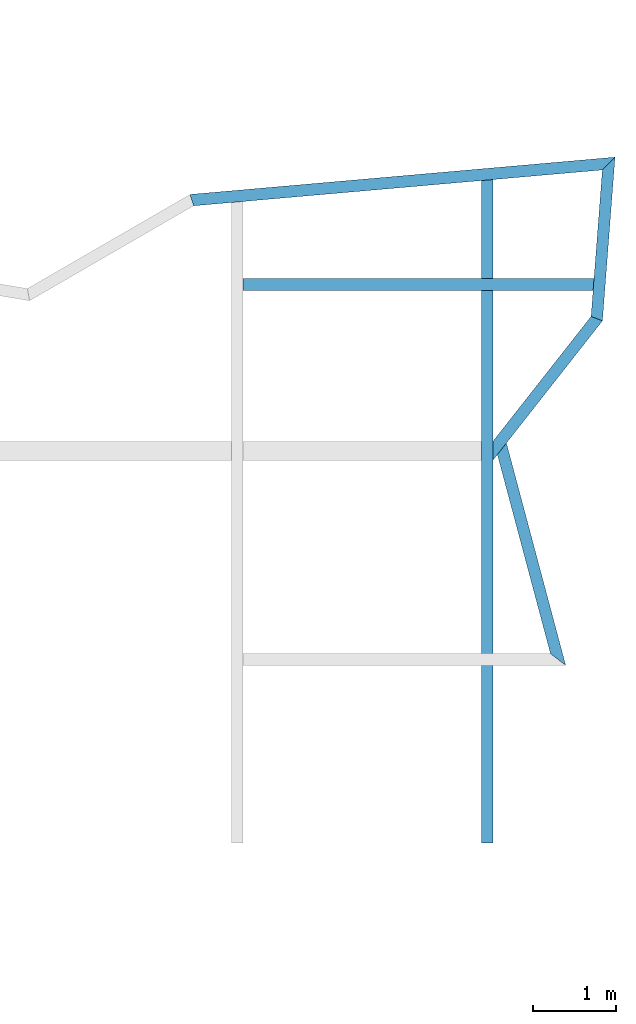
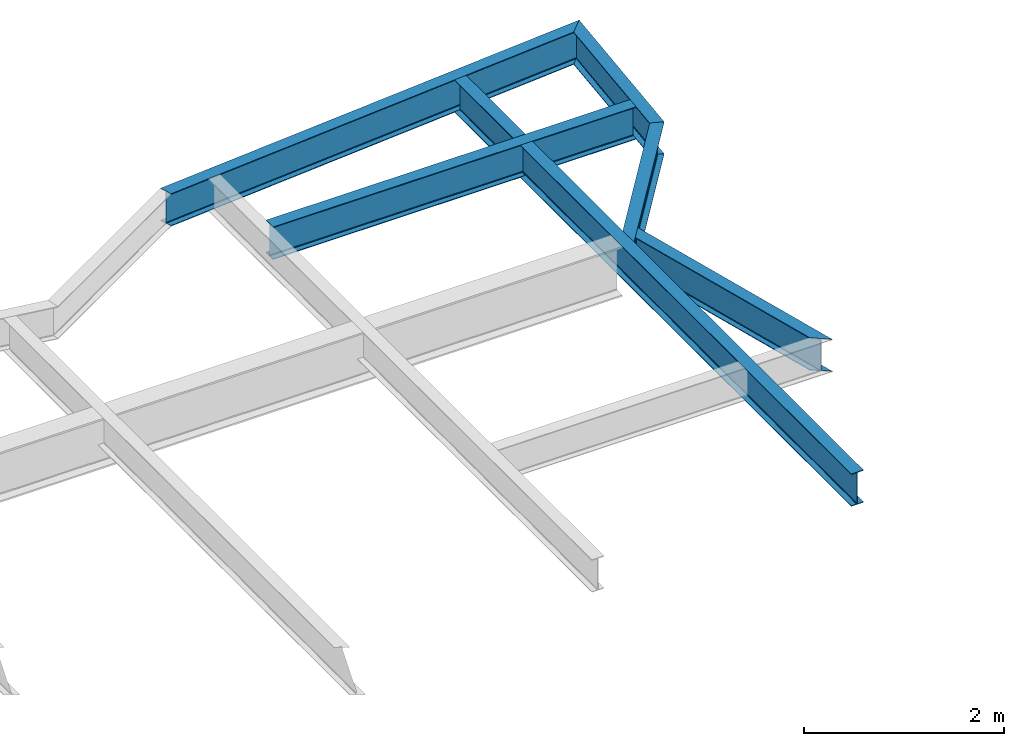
# One storey, part 23 of 23: 6 beams.
"""IFC2X3 building model written with IfcOpenShell, lengths in millimetres."""

from ifc_helpers import new_model, si_unit, origin, place, context, project, spatial, faceted_brep, material, element, save


model = new_model("IFC2X3")

# Units and contexts
context_of_model = context(None, 3, precision=1e-05, world=origin())
ifc_project = project(units=[si_unit("LENGTHUNIT", "METRE", prefix="MILLI")], contexts=[context_of_model])

# Building, storey
building = spatial("IfcBuilding", under=ifc_project, Name="Building", CompositionType="ELEMENT")
storey = spatial("IfcBuildingStorey", under=building, Name="FL5-FRM", CompositionType="ELEMENT")

# Beams
ifc_material_1 = material(Name="A992")
beam_1_placement = place(None, origin())
element("IfcBeam", 1, at=beam_1_placement, inside=storey, material=ifc_material_1, Name="B932", context=context_of_model, shape_type="Brep", body=[
    faceted_brep([(84121.0, 26959.1, 17474.0), (84229.2, 27096.8, 17474.0), (84940.3, 24430.0, 17474.0), (84758.1, 24570.0, 17474.0), (84229.2, 27096.8, 17482.8), (84940.3, 24430.0, 17482.8), (84185.4, 27041.1, 17482.8), (84866.6, 24486.6, 17482.8), (84184.2, 27039.5, 17482.9), (84864.6, 24488.2, 17482.9), (84183.0, 27038.0, 17483.3), (84862.6, 24489.7, 17483.3), (84181.9, 27036.6, 17483.9), (84860.7, 24491.2, 17483.9), (84180.8, 27035.2, 17484.7), (84858.9, 24492.5, 17484.7), (84179.9, 27034.0, 17485.8), (84857.2, 24493.8, 17485.8), (84179.1, 27033.0, 17487.0), (84856.0, 24494.8, 17486.9), (84178.4, 27032.2, 17488.3), (84854.8, 24495.7, 17488.3), (84178.0, 27031.6, 17489.8), (84854.1, 24496.3, 17489.8), (84177.7, 27031.2, 17491.4), (84853.6, 24496.6, 17491.4), (84177.6, 27031.1, 17493.0), (84853.4, 24496.8, 17493.0), (84177.6, 27031.1, 17854.0), (84853.4, 24496.8, 17854.0), (84177.7, 27031.2, 17855.6), (84853.6, 24496.6, 17855.6), (84178.0, 27031.6, 17857.2), (84854.1, 24496.3, 17857.2), (84178.4, 27032.2, 17858.7), (84854.8, 24495.7, 17858.7), (84179.1, 27033.0, 17860.0), (84856.0, 24494.8, 17860.1), (84179.9, 27034.0, 17861.2), (84857.2, 24493.8, 17861.2), (84180.8, 27035.2, 17862.3), (84858.9, 24492.5, 17862.3), (84181.9, 27036.6, 17863.1), (84860.7, 24491.2, 17863.1), (84183.0, 27038.0, 17863.7), (84862.6, 24489.7, 17863.7), (84184.2, 27039.5, 17864.1), (84864.6, 24488.2, 17864.1), (84185.4, 27041.1, 17864.2), (84866.6, 24486.6, 17864.2), (84229.2, 27096.8, 17864.2), (84940.3, 24430.0, 17864.2), (84229.2, 27096.8, 17873.0), (84940.3, 24430.0, 17873.0), (84121.0, 26959.1, 17873.0), (84758.1, 24570.0, 17873.0), (84121.0, 26959.1, 17864.2), (84758.1, 24570.0, 17864.2), (84164.7, 27014.7, 17864.2), (84831.8, 24513.4, 17864.2), (84166.0, 27016.3, 17864.1), (84833.8, 24511.8, 17864.1), (84167.2, 27017.8, 17863.7), (84835.8, 24510.3, 17863.7), (84168.3, 27019.3, 17863.1), (84837.7, 24508.8, 17863.1), (84169.3, 27020.6, 17862.3), (84839.5, 24507.5, 17862.3), (84170.3, 27021.8, 17861.2), (84841.1, 24506.2, 17861.2), (84171.1, 27022.8, 17860.0), (84842.4, 24505.2, 17860.1), (84171.7, 27023.7, 17858.7), (84843.6, 24504.3, 17858.7), (84172.2, 27024.3, 17857.2), (84844.3, 24503.7, 17857.2), (84172.5, 27024.6, 17855.6), (84844.8, 24503.4, 17855.6), (84172.6, 27024.8, 17854.0), (84845.0, 24503.2, 17854.0), (84172.6, 27024.8, 17493.0), (84845.0, 24503.2, 17493.0), (84172.5, 27024.6, 17491.4), (84844.8, 24503.4, 17491.4), (84172.2, 27024.3, 17489.8), (84844.3, 24503.7, 17489.8), (84171.7, 27023.7, 17488.3), (84843.6, 24504.3, 17488.3), (84171.1, 27022.8, 17487.0), (84842.4, 24505.2, 17486.9), (84170.3, 27021.8, 17485.8), (84841.1, 24506.2, 17485.8), (84169.3, 27020.6, 17484.7), (84839.5, 24507.5, 17484.7), (84168.3, 27019.3, 17483.9), (84837.7, 24508.8, 17483.9), (84167.2, 27017.8, 17483.3), (84835.8, 24510.3, 17483.3), (84166.0, 27016.3, 17482.9), (84833.8, 24511.8, 17482.9), (84164.7, 27014.7, 17482.8), (84831.8, 24513.4, 17482.8), (84121.0, 26959.1, 17482.8), (84758.1, 24570.0, 17482.8)], [[[0, 1, 2, 3]], [[1, 4, 5, 2]], [[4, 6, 7, 5]], [[6, 8, 9, 7]], [[8, 10, 11, 9]], [[10, 12, 13, 11]], [[12, 14, 15, 13]], [[14, 16, 17, 15]], [[16, 18, 19, 17]], [[18, 20, 21, 19]], [[20, 22, 23, 21]], [[22, 24, 25, 23]], [[24, 26, 27, 25]], [[26, 28, 29, 27]], [[28, 30, 31, 29]], [[30, 32, 33, 31]], [[32, 34, 35, 33]], [[34, 36, 37, 35]], [[36, 38, 39, 37]], [[38, 40, 41, 39]], [[40, 42, 43, 41]], [[42, 44, 45, 43]], [[44, 46, 47, 45]], [[46, 48, 49, 47]], [[48, 50, 51, 49]], [[50, 52, 53, 51]], [[52, 54, 55, 53]], [[54, 56, 57, 55]], [[56, 58, 59, 57]], [[58, 60, 61, 59]], [[60, 62, 63, 61]], [[62, 64, 65, 63]], [[64, 66, 67, 65]], [[66, 68, 69, 67]], [[68, 70, 71, 69]], [[70, 72, 73, 71]], [[72, 74, 75, 73]], [[74, 76, 77, 75]], [[76, 78, 79, 77]], [[78, 80, 81, 79]], [[80, 82, 83, 81]], [[82, 84, 85, 83]], [[84, 86, 87, 85]], [[86, 88, 89, 87]], [[88, 90, 91, 89]], [[90, 92, 93, 91]], [[92, 94, 95, 93]], [[94, 96, 97, 95]], [[96, 98, 99, 97]], [[98, 100, 101, 99]], [[100, 102, 103, 101]], [[102, 0, 3, 103]], [[0, 102, 100, 98, 96, 94, 92, 90, 88, 86, 84, 82, 80, 78, 76, 74, 72, 70, 68, 66, 64, 62, 60, 58, 56, 54, 52, 50, 48, 46, 44, 42, 40, 38, 36, 34, 32, 30, 28, 26, 24, 22, 20, 18, 16, 14, 12, 10, 8, 6, 4, 1]], [[3, 2, 5, 7, 9, 11, 13, 15, 17, 19, 21, 23, 25, 27, 29, 31, 33, 35, 37, 39, 41, 43, 45, 47, 49, 51, 53, 55, 57, 59, 61, 63, 65, 67, 69, 71, 73, 75, 77, 79, 81, 83, 85, 87, 89, 91, 93, 95, 97, 99, 101, 103]]]),
])
ifc_material_2 = material(Name="A992")
beam_2_placement = place(None, origin())
element("IfcBeam", 2, at=beam_2_placement, inside=storey, material=ifc_material_2, Name="B933", context=context_of_model, shape_type="Brep", body=[
    faceted_brep([(83930.0, 30246.2, 17474.0), (84070.0, 30258.5, 17474.0), (84070.0, 22300.0, 17474.0), (83930.0, 22300.0, 17474.0), (84070.0, 30258.5, 17482.8), (84070.0, 22300.0, 17482.8), (84013.4, 30253.5, 17482.8), (84013.4, 22300.0, 17482.8), (84011.9, 30253.4, 17482.9), (84011.9, 22300.0, 17482.9), (84010.5, 30253.3, 17483.2), (84010.5, 22300.0, 17483.2), (84009.2, 30253.2, 17483.7), (84009.2, 22300.0, 17483.7), (84007.9, 30253.1, 17484.4), (84007.9, 22300.0, 17484.4), (84006.7, 30253.0, 17485.3), (84006.7, 22300.0, 17485.3), (84005.7, 30252.9, 17486.3), (84005.7, 22300.0, 17486.3), (84004.8, 30252.8, 17487.5), (84004.8, 22300.0, 17487.5), (84004.1, 30252.7, 17488.8), (84004.1, 22300.0, 17488.8), (84003.6, 30252.7, 17490.1), (84003.6, 22300.0, 17490.1), (84003.3, 30252.7, 17491.5), (84003.3, 22300.0, 17491.5), (84003.2, 30252.7, 17493.0), (84003.2, 22300.0, 17493.0), (84003.2, 30252.7, 17854.0), (84003.2, 22300.0, 17854.0), (84003.3, 30252.7, 17855.5), (84003.3, 22300.0, 17855.5), (84003.6, 30252.7, 17856.9), (84003.6, 22300.0, 17856.9), (84004.1, 30252.7, 17858.2), (84004.1, 22300.0, 17858.2), (84004.8, 30252.8, 17859.5), (84004.8, 22300.0, 17859.5), (84005.7, 30252.9, 17860.7), (84005.7, 22300.0, 17860.7), (84006.7, 30253.0, 17861.7), (84006.7, 22300.0, 17861.7), (84007.9, 30253.1, 17862.6), (84007.9, 22300.0, 17862.6), (84009.2, 30253.2, 17863.3), (84009.2, 22300.0, 17863.3), (84010.5, 30253.3, 17863.8), (84010.5, 22300.0, 17863.8), (84011.9, 30253.4, 17864.1), (84011.9, 22300.0, 17864.1), (84013.4, 30253.5, 17864.2), (84013.4, 22300.0, 17864.2), (84070.0, 30258.5, 17864.2), (84070.0, 22300.0, 17864.2), (84070.0, 30258.5, 17873.0), (84070.0, 22300.0, 17873.0), (83930.0, 30246.2, 17873.0), (83930.0, 22300.0, 17873.0), (83930.0, 30246.2, 17864.2), (83930.0, 22300.0, 17864.2), (83986.6, 30251.2, 17864.2), (83986.6, 22300.0, 17864.2), (83988.1, 30251.3, 17864.1), (83988.1, 22300.0, 17864.1), (83989.5, 30251.4, 17863.8), (83989.5, 22300.0, 17863.8), (83990.8, 30251.6, 17863.3), (83990.8, 22300.0, 17863.3), (83992.1, 30251.7, 17862.6), (83992.1, 22300.0, 17862.6), (83993.3, 30251.8, 17861.7), (83993.3, 22300.0, 17861.7), (83994.3, 30251.9, 17860.7), (83994.3, 22300.0, 17860.7), (83995.2, 30251.9, 17859.5), (83995.2, 22300.0, 17859.5), (83995.9, 30252.0, 17858.2), (83995.9, 22300.0, 17858.2), (83996.4, 30252.1, 17856.9), (83996.4, 22300.0, 17856.9), (83996.7, 30252.1, 17855.5), (83996.7, 22300.0, 17855.5), (83996.8, 30252.1, 17854.0), (83996.8, 22300.0, 17854.0), (83996.8, 30252.1, 17493.0), (83996.8, 22300.0, 17493.0), (83996.7, 30252.1, 17491.5), (83996.7, 22300.0, 17491.5), (83996.4, 30252.1, 17490.1), (83996.4, 22300.0, 17490.1), (83995.9, 30252.0, 17488.8), (83995.9, 22300.0, 17488.8), (83995.2, 30251.9, 17487.5), (83995.2, 22300.0, 17487.5), (83994.3, 30251.9, 17486.3), (83994.3, 22300.0, 17486.3), (83993.3, 30251.8, 17485.3), (83993.3, 22300.0, 17485.3), (83992.1, 30251.7, 17484.4), (83992.1, 22300.0, 17484.4), (83990.8, 30251.6, 17483.7), (83990.8, 22300.0, 17483.7), (83989.5, 30251.4, 17483.2), (83989.5, 22300.0, 17483.2), (83988.1, 30251.3, 17482.9), (83988.1, 22300.0, 17482.9), (83986.6, 30251.2, 17482.8), (83986.6, 22300.0, 17482.8), (83930.0, 30246.2, 17482.8), (83930.0, 22300.0, 17482.8)], [[[0, 1, 2, 3]], [[1, 4, 5, 2]], [[4, 6, 7, 5]], [[6, 8, 9, 7]], [[8, 10, 11, 9]], [[10, 12, 13, 11]], [[12, 14, 15, 13]], [[14, 16, 17, 15]], [[16, 18, 19, 17]], [[18, 20, 21, 19]], [[20, 22, 23, 21]], [[22, 24, 25, 23]], [[24, 26, 27, 25]], [[26, 28, 29, 27]], [[28, 30, 31, 29]], [[30, 32, 33, 31]], [[32, 34, 35, 33]], [[34, 36, 37, 35]], [[36, 38, 39, 37]], [[38, 40, 41, 39]], [[40, 42, 43, 41]], [[42, 44, 45, 43]], [[44, 46, 47, 45]], [[46, 48, 49, 47]], [[48, 50, 51, 49]], [[50, 52, 53, 51]], [[52, 54, 55, 53]], [[54, 56, 57, 55]], [[56, 58, 59, 57]], [[58, 60, 61, 59]], [[60, 62, 63, 61]], [[62, 64, 65, 63]], [[64, 66, 67, 65]], [[66, 68, 69, 67]], [[68, 70, 71, 69]], [[70, 72, 73, 71]], [[72, 74, 75, 73]], [[74, 76, 77, 75]], [[76, 78, 79, 77]], [[78, 80, 81, 79]], [[80, 82, 83, 81]], [[82, 84, 85, 83]], [[84, 86, 87, 85]], [[86, 88, 89, 87]], [[88, 90, 91, 89]], [[90, 92, 93, 91]], [[92, 94, 95, 93]], [[94, 96, 97, 95]], [[96, 98, 99, 97]], [[98, 100, 101, 99]], [[100, 102, 103, 101]], [[102, 104, 105, 103]], [[104, 106, 107, 105]], [[106, 108, 109, 107]], [[108, 110, 111, 109]], [[110, 0, 3, 111]], [[0, 110, 108, 106, 104, 102, 100, 98, 96, 94, 92, 90, 88, 86, 84, 82, 80, 78, 76, 74, 72, 70, 68, 66, 64, 62, 60, 58, 56, 54, 52, 50, 48, 46, 44, 42, 40, 38, 36, 34, 32, 30, 28, 26, 24, 22, 20, 18, 16, 14, 12, 10, 8, 6, 4, 1]], [[3, 2, 5, 7, 9, 11, 13, 15, 17, 19, 21, 23, 25, 27, 29, 31, 33, 35, 37, 39, 41, 43, 45, 47, 49, 51, 53, 55, 57, 59, 61, 63, 65, 67, 69, 71, 73, 75, 77, 79, 81, 83, 85, 87, 89, 91, 93, 95, 97, 99, 101, 103, 105, 107, 109, 111]]]),
])
ifc_material_3 = material(Name="A992")
beam_3_placement = place(None, origin())
element("IfcBeam", 3, at=beam_3_placement, inside=storey, material=ifc_material_3, Name="B934", context=context_of_model, shape_type="Brep", body=[
    faceted_brep([(85244.9, 28616.2, 17474.0), (85381.3, 28563.1, 17474.0), (84070.0, 26894.2, 17474.0), (84070.0, 27120.8, 17474.0), (85381.3, 28563.1, 17482.8), (84070.0, 26894.2, 17482.8), (85326.2, 28584.5, 17482.8), (84070.0, 26985.8, 17482.8), (85324.7, 28585.1, 17482.9), (84070.0, 26988.1, 17482.9), (85323.4, 28585.6, 17483.2), (84070.0, 26990.4, 17483.2), (85322.0, 28586.1, 17483.7), (84070.0, 26992.6, 17483.7), (85320.8, 28586.6, 17484.4), (84070.0, 26994.6, 17484.4), (85319.7, 28587.1, 17485.3), (84070.0, 26996.6, 17485.2), (85318.7, 28587.5, 17486.3), (84070.0, 26998.2, 17486.3), (85317.8, 28587.8, 17487.5), (84070.0, 26999.6, 17487.4), (85317.1, 28588.1, 17488.8), (84070.0, 27000.8, 17488.7), (85316.6, 28588.2, 17490.1), (84070.0, 27001.6, 17490.1), (85316.3, 28588.4, 17491.5), (84070.0, 27002.1, 17491.5), (85316.2, 28588.4, 17493.0), (84070.0, 27002.3, 17493.0), (85316.2, 28588.4, 17854.0), (84070.0, 27002.3, 17854.0), (85316.3, 28588.4, 17855.5), (84070.0, 27002.1, 17855.5), (85316.6, 28588.2, 17856.9), (84070.0, 27001.6, 17856.9), (85317.1, 28588.1, 17858.2), (84070.0, 27000.8, 17858.3), (85317.8, 28587.8, 17859.5), (84070.0, 26999.6, 17859.6), (85318.7, 28587.5, 17860.7), (84070.0, 26998.2, 17860.7), (85319.7, 28587.1, 17861.7), (84070.0, 26996.6, 17861.8), (85320.8, 28586.6, 17862.6), (84070.0, 26994.6, 17862.6), (85322.0, 28586.1, 17863.3), (84070.0, 26992.6, 17863.3), (85323.4, 28585.6, 17863.8), (84070.0, 26990.4, 17863.8), (85324.7, 28585.1, 17864.1), (84070.0, 26988.1, 17864.1), (85326.2, 28584.5, 17864.2), (84070.0, 26985.8, 17864.2), (85381.3, 28563.1, 17864.2), (84070.0, 26894.2, 17864.2), (85381.3, 28563.1, 17873.0), (84070.0, 26894.2, 17873.0), (85244.9, 28616.2, 17873.0), (84070.0, 27120.8, 17873.0), (85244.9, 28616.2, 17864.2), (84070.0, 27120.8, 17864.2), (85300.1, 28594.7, 17864.2), (84070.0, 27029.2, 17864.2), (85301.5, 28594.1, 17864.1), (84070.0, 27026.8, 17864.1), (85302.9, 28593.6, 17863.8), (84070.0, 27024.5, 17863.8), (85304.2, 28593.1, 17863.3), (84070.0, 27022.3, 17863.3), (85305.4, 28592.6, 17862.6), (84070.0, 27020.3, 17862.6), (85306.6, 28592.2, 17861.7), (84070.0, 27018.4, 17861.8), (85307.6, 28591.8, 17860.7), (84070.0, 27016.7, 17860.7), (85308.4, 28591.4, 17859.5), (84070.0, 27015.3, 17859.6), (85309.1, 28591.2, 17858.2), (84070.0, 27014.2, 17858.3), (85309.6, 28591.0, 17856.9), (84070.0, 27013.4, 17856.9), (85309.9, 28590.9, 17855.5), (84070.0, 27012.9, 17855.5), (85310.0, 28590.8, 17854.0), (84070.0, 27012.7, 17854.0), (85310.0, 28590.8, 17493.0), (84070.0, 27012.7, 17493.0), (85309.9, 28590.9, 17491.5), (84070.0, 27012.9, 17491.5), (85309.6, 28591.0, 17490.1), (84070.0, 27013.4, 17490.1), (85309.1, 28591.2, 17488.8), (84070.0, 27014.2, 17488.7), (85308.4, 28591.4, 17487.5), (84070.0, 27015.3, 17487.4), (85307.6, 28591.8, 17486.3), (84070.0, 27016.7, 17486.3), (85306.6, 28592.2, 17485.3), (84070.0, 27018.4, 17485.2), (85305.4, 28592.6, 17484.4), (84070.0, 27020.3, 17484.4), (85304.2, 28593.1, 17483.7), (84070.0, 27022.3, 17483.7), (85302.9, 28593.6, 17483.2), (84070.0, 27024.5, 17483.2), (85301.5, 28594.1, 17482.9), (84070.0, 27026.8, 17482.9), (85300.1, 28594.7, 17482.8), (84070.0, 27029.2, 17482.8), (85244.9, 28616.2, 17482.8), (84070.0, 27120.8, 17482.8)], [[[0, 1, 2, 3]], [[1, 4, 5, 2]], [[4, 6, 7, 5]], [[6, 8, 9, 7]], [[8, 10, 11, 9]], [[10, 12, 13, 11]], [[12, 14, 15, 13]], [[14, 16, 17, 15]], [[16, 18, 19, 17]], [[18, 20, 21, 19]], [[20, 22, 23, 21]], [[22, 24, 25, 23]], [[24, 26, 27, 25]], [[26, 28, 29, 27]], [[28, 30, 31, 29]], [[30, 32, 33, 31]], [[32, 34, 35, 33]], [[34, 36, 37, 35]], [[36, 38, 39, 37]], [[38, 40, 41, 39]], [[40, 42, 43, 41]], [[42, 44, 45, 43]], [[44, 46, 47, 45]], [[46, 48, 49, 47]], [[48, 50, 51, 49]], [[50, 52, 53, 51]], [[52, 54, 55, 53]], [[54, 56, 57, 55]], [[56, 58, 59, 57]], [[58, 60, 61, 59]], [[60, 62, 63, 61]], [[62, 64, 65, 63]], [[64, 66, 67, 65]], [[66, 68, 69, 67]], [[68, 70, 71, 69]], [[70, 72, 73, 71]], [[72, 74, 75, 73]], [[74, 76, 77, 75]], [[76, 78, 79, 77]], [[78, 80, 81, 79]], [[80, 82, 83, 81]], [[82, 84, 85, 83]], [[84, 86, 87, 85]], [[86, 88, 89, 87]], [[88, 90, 91, 89]], [[90, 92, 93, 91]], [[92, 94, 95, 93]], [[94, 96, 97, 95]], [[96, 98, 99, 97]], [[98, 100, 101, 99]], [[100, 102, 103, 101]], [[102, 104, 105, 103]], [[104, 106, 107, 105]], [[106, 108, 109, 107]], [[108, 110, 111, 109]], [[110, 0, 3, 111]], [[0, 110, 108, 106, 104, 102, 100, 98, 96, 94, 92, 90, 88, 86, 84, 82, 80, 78, 76, 74, 72, 70, 68, 66, 64, 62, 60, 58, 56, 54, 52, 50, 48, 46, 44, 42, 40, 38, 36, 34, 32, 30, 28, 26, 24, 22, 20, 18, 16, 14, 12, 10, 8, 6, 4, 1]], [[3, 2, 5, 7, 9, 11, 13, 15, 17, 19, 21, 23, 25, 27, 29, 31, 33, 35, 37, 39, 41, 43, 45, 47, 49, 51, 53, 55, 57, 59, 61, 63, 65, 67, 69, 71, 73, 75, 77, 79, 81, 83, 85, 87, 89, 91, 93, 95, 97, 99, 101, 103, 105, 107, 109, 111]]]),
])
ifc_material_4 = material(Name="A992")
beam_4_placement = place(None, origin())
element("IfcBeam", 4, at=beam_4_placement, inside=storey, material=ifc_material_4, Name="B935", context=context_of_model, shape_type="Brep", body=[
    faceted_brep([(85380.1, 30373.4, 17474.0), (85532.4, 30527.3, 17474.0), (85381.3, 28563.1, 17474.0), (85244.9, 28616.2, 17474.0), (85532.4, 30527.3, 17482.8), (85381.3, 28563.1, 17482.8), (85470.8, 30465.1, 17482.8), (85326.2, 28584.5, 17482.8), (85469.3, 30463.5, 17482.9), (85324.7, 28585.1, 17482.9), (85467.7, 30462.0, 17483.2), (85323.4, 28585.6, 17483.2), (85466.2, 30460.5, 17483.7), (85322.0, 28586.1, 17483.7), (85464.9, 30459.1, 17484.4), (85320.8, 28586.6, 17484.4), (85463.6, 30457.8, 17485.2), (85319.7, 28587.1, 17485.3), (85462.5, 30456.7, 17486.3), (85318.7, 28587.5, 17486.3), (85461.5, 30455.7, 17487.4), (85317.8, 28587.8, 17487.5), (85460.7, 30454.9, 17488.7), (85317.1, 28588.1, 17488.8), (85460.2, 30454.4, 17490.1), (85316.6, 28588.2, 17490.1), (85459.9, 30454.1, 17491.5), (85316.3, 28588.4, 17491.5), (85459.7, 30453.9, 17493.0), (85316.2, 28588.4, 17493.0), (85459.7, 30453.9, 17854.0), (85316.2, 28588.4, 17854.0), (85459.9, 30454.1, 17855.5), (85316.3, 28588.4, 17855.5), (85460.2, 30454.4, 17856.9), (85316.6, 28588.2, 17856.9), (85460.7, 30454.9, 17858.3), (85317.1, 28588.1, 17858.2), (85461.5, 30455.7, 17859.6), (85317.8, 28587.8, 17859.5), (85462.5, 30456.7, 17860.7), (85318.7, 28587.5, 17860.7), (85463.6, 30457.8, 17861.8), (85319.7, 28587.1, 17861.7), (85464.9, 30459.1, 17862.6), (85320.8, 28586.6, 17862.6), (85466.2, 30460.5, 17863.3), (85322.0, 28586.1, 17863.3), (85467.7, 30462.0, 17863.8), (85323.4, 28585.6, 17863.8), (85469.3, 30463.5, 17864.1), (85324.7, 28585.1, 17864.1), (85470.8, 30465.1, 17864.2), (85326.2, 28584.5, 17864.2), (85532.4, 30527.3, 17864.2), (85381.3, 28563.1, 17864.2), (85532.4, 30527.3, 17873.0), (85381.3, 28563.1, 17873.0), (85380.1, 30373.4, 17873.0), (85244.9, 28616.2, 17873.0), (85380.1, 30373.4, 17864.2), (85244.9, 28616.2, 17864.2), (85441.7, 30435.7, 17864.2), (85300.1, 28594.7, 17864.2), (85443.2, 30437.2, 17864.1), (85301.5, 28594.1, 17864.1), (85444.8, 30438.8, 17863.8), (85302.9, 28593.6, 17863.8), (85446.3, 30440.3, 17863.3), (85304.2, 28593.1, 17863.3), (85447.6, 30441.7, 17862.6), (85305.4, 28592.6, 17862.6), (85448.9, 30443.0, 17861.8), (85306.6, 28592.2, 17861.7), (85450.0, 30444.1, 17860.7), (85307.6, 28591.8, 17860.7), (85451.0, 30445.0, 17859.6), (85308.4, 28591.4, 17859.5), (85451.8, 30445.8, 17858.3), (85309.1, 28591.2, 17858.2), (85452.3, 30446.4, 17856.9), (85309.6, 28591.0, 17856.9), (85452.6, 30446.7, 17855.5), (85309.9, 28590.9, 17855.5), (85452.8, 30446.9, 17854.0), (85310.0, 28590.8, 17854.0), (85452.8, 30446.9, 17493.0), (85310.0, 28590.8, 17493.0), (85452.6, 30446.7, 17491.5), (85309.9, 28590.9, 17491.5), (85452.3, 30446.4, 17490.1), (85309.6, 28591.0, 17490.1), (85451.8, 30445.8, 17488.7), (85309.1, 28591.2, 17488.8), (85451.0, 30445.0, 17487.4), (85308.4, 28591.4, 17487.5), (85450.0, 30444.1, 17486.3), (85307.6, 28591.8, 17486.3), (85448.9, 30443.0, 17485.2), (85306.6, 28592.2, 17485.3), (85447.6, 30441.7, 17484.4), (85305.4, 28592.6, 17484.4), (85446.3, 30440.3, 17483.7), (85304.2, 28593.1, 17483.7), (85444.8, 30438.8, 17483.2), (85302.9, 28593.6, 17483.2), (85443.2, 30437.2, 17482.9), (85301.5, 28594.1, 17482.9), (85441.7, 30435.7, 17482.8), (85300.1, 28594.7, 17482.8), (85380.1, 30373.4, 17482.8), (85244.9, 28616.2, 17482.8)], [[[0, 1, 2, 3]], [[1, 4, 5, 2]], [[4, 6, 7, 5]], [[6, 8, 9, 7]], [[8, 10, 11, 9]], [[10, 12, 13, 11]], [[12, 14, 15, 13]], [[14, 16, 17, 15]], [[16, 18, 19, 17]], [[18, 20, 21, 19]], [[20, 22, 23, 21]], [[22, 24, 25, 23]], [[24, 26, 27, 25]], [[26, 28, 29, 27]], [[28, 30, 31, 29]], [[30, 32, 33, 31]], [[32, 34, 35, 33]], [[34, 36, 37, 35]], [[36, 38, 39, 37]], [[38, 40, 41, 39]], [[40, 42, 43, 41]], [[42, 44, 45, 43]], [[44, 46, 47, 45]], [[46, 48, 49, 47]], [[48, 50, 51, 49]], [[50, 52, 53, 51]], [[52, 54, 55, 53]], [[54, 56, 57, 55]], [[56, 58, 59, 57]], [[58, 60, 61, 59]], [[60, 62, 63, 61]], [[62, 64, 65, 63]], [[64, 66, 67, 65]], [[66, 68, 69, 67]], [[68, 70, 71, 69]], [[70, 72, 73, 71]], [[72, 74, 75, 73]], [[74, 76, 77, 75]], [[76, 78, 79, 77]], [[78, 80, 81, 79]], [[80, 82, 83, 81]], [[82, 84, 85, 83]], [[84, 86, 87, 85]], [[86, 88, 89, 87]], [[88, 90, 91, 89]], [[90, 92, 93, 91]], [[92, 94, 95, 93]], [[94, 96, 97, 95]], [[96, 98, 99, 97]], [[98, 100, 101, 99]], [[100, 102, 103, 101]], [[102, 104, 105, 103]], [[104, 106, 107, 105]], [[106, 108, 109, 107]], [[108, 110, 111, 109]], [[110, 0, 3, 111]], [[0, 110, 108, 106, 104, 102, 100, 98, 96, 94, 92, 90, 88, 86, 84, 82, 80, 78, 76, 74, 72, 70, 68, 66, 64, 62, 60, 58, 56, 54, 52, 50, 48, 46, 44, 42, 40, 38, 36, 34, 32, 30, 28, 26, 24, 22, 20, 18, 16, 14, 12, 10, 8, 6, 4, 1]], [[3, 2, 5, 7, 9, 11, 13, 15, 17, 19, 21, 23, 25, 27, 29, 31, 33, 35, 37, 39, 41, 43, 45, 47, 49, 51, 53, 55, 57, 59, 61, 63, 65, 67, 69, 71, 73, 75, 77, 79, 81, 83, 85, 87, 89, 91, 93, 95, 97, 99, 101, 103, 105, 107, 109, 111]]]),
])
ifc_material_5 = material(Name="A992")
beam_5_placement = place(None, origin())
element("IfcBeam", 5, at=beam_5_placement, inside=storey, material=ifc_material_5, Name="B936", context=context_of_model, shape_type="Brep", body=[
    faceted_brep([(81070.0, 28930.0, 17474.0), (81070.0, 29070.0, 17474.0), (85279.9, 29070.0, 17474.0), (85269.1, 28930.0, 17474.0), (81070.0, 29070.0, 17482.8), (85279.9, 29070.0, 17482.8), (81070.0, 29013.4, 17482.8), (85275.5, 29013.4, 17482.8), (81070.0, 29011.9, 17482.9), (85275.4, 29011.9, 17482.9), (81070.0, 29010.5, 17483.2), (85275.3, 29010.5, 17483.2), (81070.0, 29009.2, 17483.7), (85275.2, 29009.2, 17483.7), (81070.0, 29007.9, 17484.4), (85275.1, 29007.9, 17484.4), (81070.0, 29006.7, 17485.3), (85275.0, 29006.7, 17485.3), (81070.0, 29005.7, 17486.3), (85274.9, 29005.7, 17486.3), (81070.0, 29004.8, 17487.5), (85274.8, 29004.8, 17487.5), (81070.0, 29004.1, 17488.8), (85274.8, 29004.1, 17488.8), (81070.0, 29003.6, 17490.1), (85274.7, 29003.6, 17490.1), (81070.0, 29003.3, 17491.5), (85274.7, 29003.3, 17491.5), (81070.0, 29003.2, 17493.0), (85274.7, 29003.2, 17493.0), (81070.0, 29003.2, 17854.0), (85274.7, 29003.2, 17854.0), (81070.0, 29003.3, 17855.5), (85274.7, 29003.3, 17855.5), (81070.0, 29003.6, 17856.9), (85274.7, 29003.6, 17856.9), (81070.0, 29004.1, 17858.2), (85274.8, 29004.1, 17858.2), (81070.0, 29004.8, 17859.5), (85274.8, 29004.8, 17859.5), (81070.0, 29005.7, 17860.7), (85274.9, 29005.7, 17860.7), (81070.0, 29006.7, 17861.7), (85275.0, 29006.7, 17861.7), (81070.0, 29007.9, 17862.6), (85275.1, 29007.9, 17862.6), (81070.0, 29009.2, 17863.3), (85275.2, 29009.2, 17863.3), (81070.0, 29010.5, 17863.8), (85275.3, 29010.5, 17863.8), (81070.0, 29011.9, 17864.1), (85275.4, 29011.9, 17864.1), (81070.0, 29013.4, 17864.2), (85275.5, 29013.4, 17864.2), (81070.0, 29070.0, 17864.2), (85279.9, 29070.0, 17864.2), (81070.0, 29070.0, 17873.0), (85279.9, 29070.0, 17873.0), (81070.0, 28930.0, 17873.0), (85269.1, 28930.0, 17873.0), (81070.0, 28930.0, 17864.2), (85269.1, 28930.0, 17864.2), (81070.0, 28986.6, 17864.2), (85273.4, 28986.6, 17864.2), (81070.0, 28988.1, 17864.1), (85273.6, 28988.1, 17864.1), (81070.0, 28989.5, 17863.8), (85273.7, 28989.5, 17863.8), (81070.0, 28990.8, 17863.3), (85273.8, 28990.8, 17863.3), (81070.0, 28992.1, 17862.6), (85273.9, 28992.1, 17862.6), (81070.0, 28993.3, 17861.7), (85274.0, 28993.3, 17861.7), (81070.0, 28994.3, 17860.7), (85274.0, 28994.3, 17860.7), (81070.0, 28995.2, 17859.5), (85274.1, 28995.2, 17859.5), (81070.0, 28995.9, 17858.2), (85274.2, 28995.9, 17858.2), (81070.0, 28996.4, 17856.9), (85274.2, 28996.4, 17856.9), (81070.0, 28996.7, 17855.5), (85274.2, 28996.7, 17855.5), (81070.0, 28996.8, 17854.0), (85274.2, 28996.8, 17854.0), (81070.0, 28996.8, 17493.0), (85274.2, 28996.8, 17493.0), (81070.0, 28996.7, 17491.5), (85274.2, 28996.7, 17491.5), (81070.0, 28996.4, 17490.1), (85274.2, 28996.4, 17490.1), (81070.0, 28995.9, 17488.8), (85274.2, 28995.9, 17488.8), (81070.0, 28995.2, 17487.5), (85274.1, 28995.2, 17487.5), (81070.0, 28994.3, 17486.3), (85274.0, 28994.3, 17486.3), (81070.0, 28993.3, 17485.3), (85274.0, 28993.3, 17485.3), (81070.0, 28992.1, 17484.4), (85273.9, 28992.1, 17484.4), (81070.0, 28990.8, 17483.7), (85273.8, 28990.8, 17483.7), (81070.0, 28989.5, 17483.2), (85273.7, 28989.5, 17483.2), (81070.0, 28988.1, 17482.9), (85273.6, 28988.1, 17482.9), (81070.0, 28986.6, 17482.8), (85273.4, 28986.6, 17482.8), (81070.0, 28930.0, 17482.8), (85269.1, 28930.0, 17482.8)], [[[0, 1, 2, 3]], [[1, 4, 5, 2]], [[4, 6, 7, 5]], [[6, 8, 9, 7]], [[8, 10, 11, 9]], [[10, 12, 13, 11]], [[12, 14, 15, 13]], [[14, 16, 17, 15]], [[16, 18, 19, 17]], [[18, 20, 21, 19]], [[20, 22, 23, 21]], [[22, 24, 25, 23]], [[24, 26, 27, 25]], [[26, 28, 29, 27]], [[28, 30, 31, 29]], [[30, 32, 33, 31]], [[32, 34, 35, 33]], [[34, 36, 37, 35]], [[36, 38, 39, 37]], [[38, 40, 41, 39]], [[40, 42, 43, 41]], [[42, 44, 45, 43]], [[44, 46, 47, 45]], [[46, 48, 49, 47]], [[48, 50, 51, 49]], [[50, 52, 53, 51]], [[52, 54, 55, 53]], [[54, 56, 57, 55]], [[56, 58, 59, 57]], [[58, 60, 61, 59]], [[60, 62, 63, 61]], [[62, 64, 65, 63]], [[64, 66, 67, 65]], [[66, 68, 69, 67]], [[68, 70, 71, 69]], [[70, 72, 73, 71]], [[72, 74, 75, 73]], [[74, 76, 77, 75]], [[76, 78, 79, 77]], [[78, 80, 81, 79]], [[80, 82, 83, 81]], [[82, 84, 85, 83]], [[84, 86, 87, 85]], [[86, 88, 89, 87]], [[88, 90, 91, 89]], [[90, 92, 93, 91]], [[92, 94, 95, 93]], [[94, 96, 97, 95]], [[96, 98, 99, 97]], [[98, 100, 101, 99]], [[100, 102, 103, 101]], [[102, 104, 105, 103]], [[104, 106, 107, 105]], [[106, 108, 109, 107]], [[108, 110, 111, 109]], [[110, 0, 3, 111]], [[0, 110, 108, 106, 104, 102, 100, 98, 96, 94, 92, 90, 88, 86, 84, 82, 80, 78, 76, 74, 72, 70, 68, 66, 64, 62, 60, 58, 56, 54, 52, 50, 48, 46, 44, 42, 40, 38, 36, 34, 32, 30, 28, 26, 24, 22, 20, 18, 16, 14, 12, 10, 8, 6, 4, 1]], [[3, 2, 5, 7, 9, 11, 13, 15, 17, 19, 21, 23, 25, 27, 29, 31, 33, 35, 37, 39, 41, 43, 45, 47, 49, 51, 53, 55, 57, 59, 61, 63, 65, 67, 69, 71, 73, 75, 77, 79, 81, 83, 85, 87, 89, 91, 93, 95, 97, 99, 101, 103, 105, 107, 109, 111]]]),
])
ifc_material_6 = material(Name="A992")
beam_6_placement = place(None, origin())
element("IfcBeam", 6, at=beam_6_placement, inside=storey, material=ifc_material_6, Name="B937", context=context_of_model, shape_type="Brep", body=[
    faceted_brep([(80476.0, 29943.2, 17474.0), (80432.8, 30080.0, 17474.0), (85532.4, 30527.3, 17474.0), (85380.1, 30373.4, 17474.0), (80432.8, 30080.0, 17482.8), (85532.4, 30527.3, 17482.8), (80450.2, 30024.7, 17482.8), (85470.8, 30465.1, 17482.8), (80450.7, 30023.3, 17482.9), (85469.3, 30463.5, 17482.9), (80451.1, 30021.9, 17483.2), (85467.7, 30462.0, 17483.2), (80451.5, 30020.6, 17483.7), (85466.2, 30460.5, 17483.7), (80451.9, 30019.3, 17484.4), (85464.9, 30459.1, 17484.4), (80452.3, 30018.2, 17485.3), (85463.6, 30457.8, 17485.2), (80452.6, 30017.2, 17486.3), (85462.5, 30456.7, 17486.3), (80452.9, 30016.3, 17487.5), (85461.5, 30455.7, 17487.4), (80453.1, 30015.6, 17488.8), (85460.7, 30454.9, 17488.7), (80453.3, 30015.2, 17490.1), (85460.2, 30454.4, 17490.1), (80453.3, 30014.9, 17491.5), (85459.9, 30454.1, 17491.5), (80453.4, 30014.7, 17493.0), (85459.7, 30453.9, 17493.0), (80453.4, 30014.7, 17854.0), (85459.7, 30453.9, 17854.0), (80453.3, 30014.9, 17855.5), (85459.9, 30454.1, 17855.5), (80453.3, 30015.2, 17856.9), (85460.2, 30454.4, 17856.9), (80453.1, 30015.6, 17858.2), (85460.7, 30454.9, 17858.3), (80452.9, 30016.3, 17859.5), (85461.5, 30455.7, 17859.6), (80452.6, 30017.2, 17860.7), (85462.5, 30456.7, 17860.7), (80452.3, 30018.2, 17861.7), (85463.6, 30457.8, 17861.8), (80451.9, 30019.3, 17862.6), (85464.9, 30459.1, 17862.6), (80451.5, 30020.6, 17863.3), (85466.2, 30460.5, 17863.3), (80451.1, 30021.9, 17863.8), (85467.7, 30462.0, 17863.8), (80450.7, 30023.3, 17864.1), (85469.3, 30463.5, 17864.1), (80450.2, 30024.7, 17864.2), (85470.8, 30465.1, 17864.2), (80432.8, 30080.0, 17864.2), (85532.4, 30527.3, 17864.2), (80432.8, 30080.0, 17873.0), (85532.4, 30527.3, 17873.0), (80476.0, 29943.2, 17873.0), (85380.1, 30373.4, 17873.0), (80476.0, 29943.2, 17864.2), (85380.1, 30373.4, 17864.2), (80458.5, 29998.5, 17864.2), (85441.7, 30435.7, 17864.2), (80458.1, 29999.9, 17864.1), (85443.2, 30437.2, 17864.1), (80457.6, 30001.3, 17863.8), (85444.8, 30438.8, 17863.8), (80457.2, 30002.7, 17863.3), (85446.3, 30440.3, 17863.3), (80456.8, 30003.9, 17862.6), (85447.6, 30441.7, 17862.6), (80456.4, 30005.1, 17861.7), (85448.9, 30443.0, 17861.8), (80456.1, 30006.1, 17860.7), (85450.0, 30444.1, 17860.7), (80455.9, 30006.9, 17859.5), (85451.0, 30445.0, 17859.6), (80455.6, 30007.6, 17858.2), (85451.8, 30445.8, 17858.3), (80455.5, 30008.1, 17856.9), (85452.3, 30446.4, 17856.9), (80455.4, 30008.4, 17855.5), (85452.6, 30446.7, 17855.5), (80455.4, 30008.5, 17854.0), (85452.8, 30446.9, 17854.0), (80455.4, 30008.5, 17493.0), (85452.8, 30446.9, 17493.0), (80455.4, 30008.4, 17491.5), (85452.6, 30446.7, 17491.5), (80455.5, 30008.1, 17490.1), (85452.3, 30446.4, 17490.1), (80455.6, 30007.6, 17488.8), (85451.8, 30445.8, 17488.7), (80455.9, 30006.9, 17487.5), (85451.0, 30445.0, 17487.4), (80456.1, 30006.1, 17486.3), (85450.0, 30444.1, 17486.3), (80456.4, 30005.1, 17485.3), (85448.9, 30443.0, 17485.2), (80456.8, 30003.9, 17484.4), (85447.6, 30441.7, 17484.4), (80457.2, 30002.7, 17483.7), (85446.3, 30440.3, 17483.7), (80457.6, 30001.3, 17483.2), (85444.8, 30438.8, 17483.2), (80458.1, 29999.9, 17482.9), (85443.2, 30437.2, 17482.9), (80458.5, 29998.5, 17482.8), (85441.7, 30435.7, 17482.8), (80476.0, 29943.2, 17482.8), (85380.1, 30373.4, 17482.8)], [[[0, 1, 2, 3]], [[1, 4, 5, 2]], [[4, 6, 7, 5]], [[6, 8, 9, 7]], [[8, 10, 11, 9]], [[10, 12, 13, 11]], [[12, 14, 15, 13]], [[14, 16, 17, 15]], [[16, 18, 19, 17]], [[18, 20, 21, 19]], [[20, 22, 23, 21]], [[22, 24, 25, 23]], [[24, 26, 27, 25]], [[26, 28, 29, 27]], [[28, 30, 31, 29]], [[30, 32, 33, 31]], [[32, 34, 35, 33]], [[34, 36, 37, 35]], [[36, 38, 39, 37]], [[38, 40, 41, 39]], [[40, 42, 43, 41]], [[42, 44, 45, 43]], [[44, 46, 47, 45]], [[46, 48, 49, 47]], [[48, 50, 51, 49]], [[50, 52, 53, 51]], [[52, 54, 55, 53]], [[54, 56, 57, 55]], [[56, 58, 59, 57]], [[58, 60, 61, 59]], [[60, 62, 63, 61]], [[62, 64, 65, 63]], [[64, 66, 67, 65]], [[66, 68, 69, 67]], [[68, 70, 71, 69]], [[70, 72, 73, 71]], [[72, 74, 75, 73]], [[74, 76, 77, 75]], [[76, 78, 79, 77]], [[78, 80, 81, 79]], [[80, 82, 83, 81]], [[82, 84, 85, 83]], [[84, 86, 87, 85]], [[86, 88, 89, 87]], [[88, 90, 91, 89]], [[90, 92, 93, 91]], [[92, 94, 95, 93]], [[94, 96, 97, 95]], [[96, 98, 99, 97]], [[98, 100, 101, 99]], [[100, 102, 103, 101]], [[102, 104, 105, 103]], [[104, 106, 107, 105]], [[106, 108, 109, 107]], [[108, 110, 111, 109]], [[110, 0, 3, 111]], [[0, 110, 108, 106, 104, 102, 100, 98, 96, 94, 92, 90, 88, 86, 84, 82, 80, 78, 76, 74, 72, 70, 68, 66, 64, 62, 60, 58, 56, 54, 52, 50, 48, 46, 44, 42, 40, 38, 36, 34, 32, 30, 28, 26, 24, 22, 20, 18, 16, 14, 12, 10, 8, 6, 4, 1]], [[3, 2, 5, 7, 9, 11, 13, 15, 17, 19, 21, 23, 25, 27, 29, 31, 33, 35, 37, 39, 41, 43, 45, 47, 49, 51, 53, 55, 57, 59, 61, 63, 65, 67, 69, 71, 73, 75, 77, 79, 81, 83, 85, 87, 89, 91, 93, 95, 97, 99, 101, 103, 105, 107, 109, 111]]]),
])

save(model, "model.ifc")
